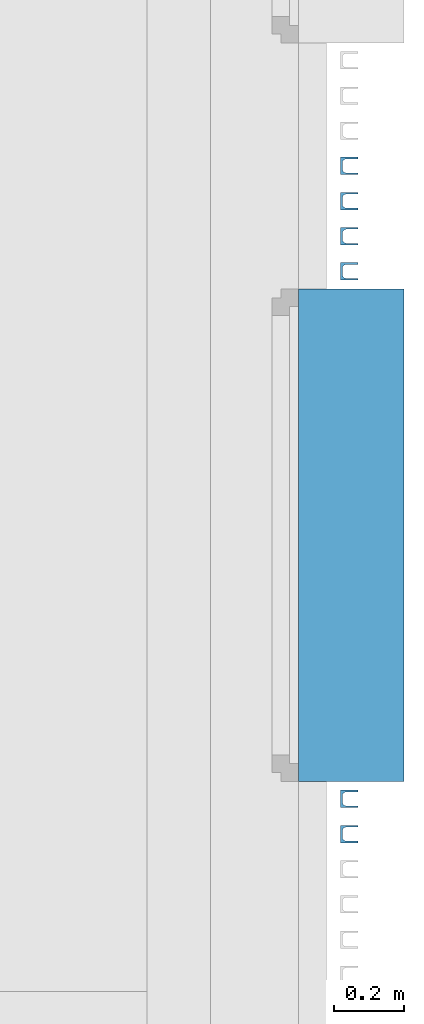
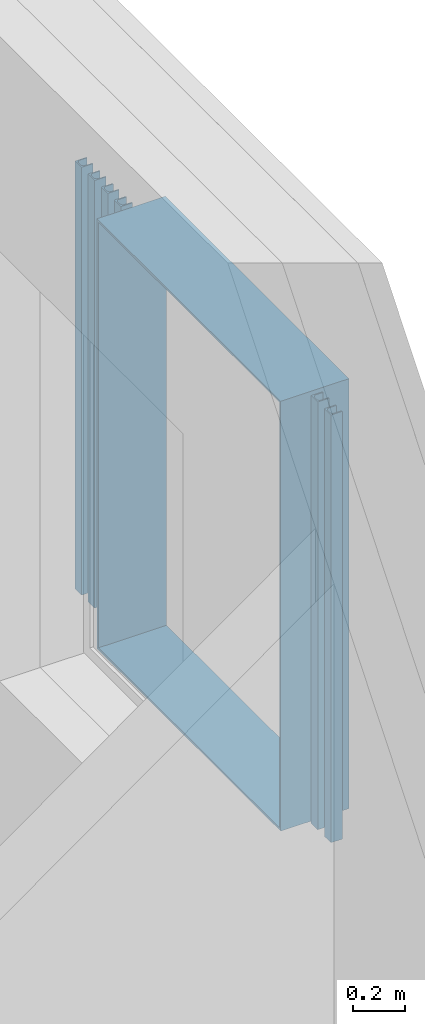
# One storey, part 39 of 100: 7 discrete accessories.
"""IFC2X3 building model written with IfcOpenShell, lengths in millimetres."""

from ifc_helpers import new_model, entity, si_unit, converted_unit, derived_unit, money_unit, direction, frame, origin_with_axes, place, context, subcontext, project, spatial, faceted_brep, source, transform, mapped, material, type_object, element, save


model = new_model("IFC2X3")

# Units and contexts
model_context = context("Model", 3, precision=0.01, world=origin_with_axes(), true_north=direction((0.0, 1.0)))
body_context = subcontext(model_context, "Body", "Model", "MODEL_VIEW")
ifc_project = project(units=[si_unit("LENGTHUNIT", "METRE", prefix="MILLI"), si_unit("AREAUNIT", "SQUARE_METRE"), si_unit("VOLUMEUNIT", "CUBIC_METRE"), converted_unit("PLANEANGLEUNIT", "DEGREE", entity("IfcPlaneAngleMeasure", 0.0174532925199), si_unit("PLANEANGLEUNIT", "RADIAN"), dimensions=[0, 0, 0, 0, 0, 0, 0]), si_unit("SOLIDANGLEUNIT", "STERADIAN"), money_unit("EUR"), converted_unit("TIMEUNIT", "Year", entity("IfcTimeMeasure", 31556926.0), si_unit("TIMEUNIT", "SECOND"), dimensions=[0, 0, 1, 0, 0, 0, 0]), si_unit("MASSUNIT", "GRAM", prefix="KILO"), si_unit("THERMODYNAMICTEMPERATUREUNIT", "DEGREE_CELSIUS"), si_unit("LUMINOUSINTENSITYUNIT", "LUMEN"), si_unit("ENERGYUNIT", "JOULE", prefix="MEGA"), derived_unit("THERMALCONDUCTANCEUNIT", [(si_unit("POWERUNIT", "WATT"), 1), (si_unit("LENGTHUNIT", "METRE"), -1), (si_unit("THERMODYNAMICTEMPERATUREUNIT", "KELVIN"), -1)]), derived_unit("SPECIFICHEATCAPACITYUNIT", [(si_unit("ENERGYUNIT", "JOULE"), 1), (si_unit("MASSUNIT", "GRAM", prefix="KILO"), -1), (si_unit("THERMODYNAMICTEMPERATUREUNIT", "KELVIN"), -1)]), derived_unit("MASSDENSITYUNIT", [(si_unit("MASSUNIT", "GRAM", prefix="KILO"), 1), (si_unit("VOLUMEUNIT", "CUBIC_METRE"), -1)])], contexts=[model_context])

# Site, building, storey
site_placement = place(None, origin_with_axes())
site = spatial("IfcSite", under=ifc_project, at=site_placement, Name="Politse- ja Piirivalveameti ning Päästeameti ühishoone", CompositionType="ELEMENT")
building_placement = place(site_placement, origin_with_axes())
building = spatial("IfcBuilding", under=site, at=building_placement, Name="Politse- ja Piirivalveameti ning Päästeameti ühishoone", CompositionType="ELEMENT")
storey_placement = place(building_placement, frame((0.0, 0.0, 3800.0), z_axis=(0.0, 0.0, 1.0), x_axis=(1.0, 0.0, 0.0)))
storey = spatial("IfcBuildingStorey", under=building, at=storey_placement, Name="Teine korrus", CompositionType="ELEMENT", Elevation=3800.0)

# Discrete accessories
ifc_material_1 = material(Name="SV-01_Krohv - Kips")
discrete_accessory_type_1 = type_object("IfcDiscreteAccessoryType", Name="Architrave 01 23")
shared_shape_1 = source(origin_with_axes(), body_context, "Body", "Brep", [
    faceted_brep([(-700.0, 0.0, -10.0), (700.0, 0.0, -10.0), (700.0, -300.182356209, -10.0), (-700.0, -300.182356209, -10.0), (-690.0, 0.0, 0.0), (690.0, 0.0, 0.0), (690.0, -300.182356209, 0.0), (-690.0, -300.182356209, 0.0)], [[[0, 1, 2, 3]], [[0, 4, 5, 1]], [[1, 5, 6, 2]], [[3, 2, 6, 7]], [[4, 0, 3, 7]], [[5, 4, 7, 6]]]),
    faceted_brep([(700.0, 0.0, -10.0), (700.0, 0.0, 1990.0), (700.0, -300.182356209, 1990.0), (700.0, -300.182356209, -10.0), (690.0, 0.0, 0.0), (690.0, 0.0, 1980.0), (690.0, -300.182356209, 1980.0), (690.0, -300.182356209, 0.0)], [[[0, 1, 2, 3]], [[0, 4, 5, 1]], [[1, 5, 6, 2]], [[3, 2, 6, 7]], [[4, 0, 3, 7]], [[5, 4, 7, 6]]]),
    faceted_brep([(700.0, 0.0, 1990.0), (-700.0, 0.0, 1990.0), (-700.0, -300.182356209, 1990.0), (700.0, -300.182356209, 1990.0), (690.0, 0.0, 1980.0), (-690.0, 0.0, 1980.0), (-690.0, -300.182356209, 1980.0), (690.0, -300.182356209, 1980.0)], [[[0, 1, 2, 3]], [[0, 4, 5, 1]], [[1, 5, 6, 2]], [[3, 2, 6, 7]], [[4, 0, 3, 7]], [[5, 4, 7, 6]]]),
    faceted_brep([(-700.0, 0.0, 1990.0), (-700.0, 0.0, -10.0), (-700.0, -300.182356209, -10.0), (-700.0, -300.182356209, 1990.0), (-690.0, 0.0, 1980.0), (-690.0, 0.0, 0.0), (-690.0, -300.182356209, 0.0), (-690.0, -300.182356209, 1980.0)], [[[0, 1, 2, 3]], [[0, 4, 5, 1]], [[1, 5, 6, 2]], [[3, 2, 6, 7]], [[4, 0, 3, 7]], [[5, 4, 7, 6]]]),
])
discrete_accessory_placement = place(storey_placement, frame((70090.5664257, 17099.9520832, 810.0), z_axis=(0.0, 0.0, 1.0), x_axis=(0.0, 1.0, 0.0)))
element("IfcDiscreteAccessory", 1, at=discrete_accessory_placement, inside=storey, type_object=discrete_accessory_type_1, material=ifc_material_1, Name="AKNARAAM 01", context=body_context, shape_type="MappedRepresentation", body=[
    mapped(shared_shape_1, transform((0.0, 0.0, 0.0))),
])
ifc_material_2 = material(Name="ET-05_Teras")
discrete_accessory_type_2 = type_object("IfcDiscreteAccessoryType", Name="UAP Column 23")
shared_shape_2 = source(origin_with_axes(), body_context, "Body", "Brep", [
    faceted_brep([(25.0, -25.0, 0.0), (25.0, -20.0, 0.0), (25.0, -20.0, 1990.0), (25.0, -25.0, 1990.0), (-25.0, -25.0, 0.0), (-25.0, 25.0, 0.0), (25.0, 25.0, 0.0), (25.0, 20.0, 0.0), (-8.5, 20.0, 0.0), (-14.25, 18.4592921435, 0.0), (-18.4592921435, 14.25, 0.0), (-20.0, 8.5, 0.0), (-20.0, -8.5, 0.0), (-18.4592921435, -14.25, 0.0), (-14.25, -18.4592921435, 0.0), (-8.5, -20.0, 0.0), (-8.5, -20.0, 1990.0), (-14.25, -18.4592921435, 1990.0), (-18.4592921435, -14.25, 1990.0), (-20.0, -8.5, 1990.0), (-20.0, 8.5, 1990.0), (-18.4592921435, 14.25, 1990.0), (-14.25, 18.4592921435, 1990.0), (-8.5, 20.0, 1990.0), (25.0, 20.0, 1990.0), (25.0, 25.0, 1990.0), (-25.0, 25.0, 1990.0), (-25.0, -25.0, 1990.0)], [[[0, 1, 2, 3]], [[0, 4, 5, 6, 7, 8, 9, 10, 11, 12, 13, 14, 15, 1]], [[1, 15, 16, 2]], [[3, 2, 16, 17, 18, 19, 20, 21, 22, 23, 24, 25, 26, 27]], [[4, 0, 3, 27]], [[5, 4, 27, 26]], [[6, 5, 26, 25]], [[7, 6, 25, 24]], [[8, 7, 24, 23]], [[9, 8, 23, 22]], [[10, 9, 22, 21]], [[11, 10, 21, 20]], [[12, 11, 20, 19]], [[13, 12, 19, 18]], [[14, 13, 18, 17]], [[15, 14, 17, 16]]]),
])
for number, where, z_axis, x_axis in (
    (2, (70235.2095212, 16249.9520832, 810.000049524), (0.0, 0.0, 1.0), (1.0, 0.0, 0.0)),
    (3, (70235.2095212, 16349.9520832, 810.000049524), (0.0, 0.0, 1.0), (1.0, 0.0, 0.0)),
    (4, (70235.2095212, 17849.9520832, 810.000049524), (0.0, 0.0, 1.0), (1.0, 0.0, 0.0)),
    (5, (70235.2095212, 17949.9520832, 810.000049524), (0.0, 0.0, 1.0), (1.0, 0.0, 0.0)),
    (6, (70235.2095212, 18049.9520832, 810.000049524), (0.0, 0.0, 1.0), (1.0, 0.0, 0.0)),
    (7, (70235.2095212, 18149.9520832, 810.000049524), (0.0, 0.0, 1.0), (1.0, 0.0, 0.0)),
):
    element("IfcDiscreteAccessory", number, at=place(storey_placement, frame(where, z_axis=z_axis, x_axis=x_axis)), inside=storey, type_object=discrete_accessory_type_2, material=ifc_material_2, Name="Fassaadiribid", context=body_context, shape_type="MappedRepresentation", body=[
        mapped(shared_shape_2, transform((0.0, 0.0, 0.0))),
    ])

save(model, "model.ifc")
